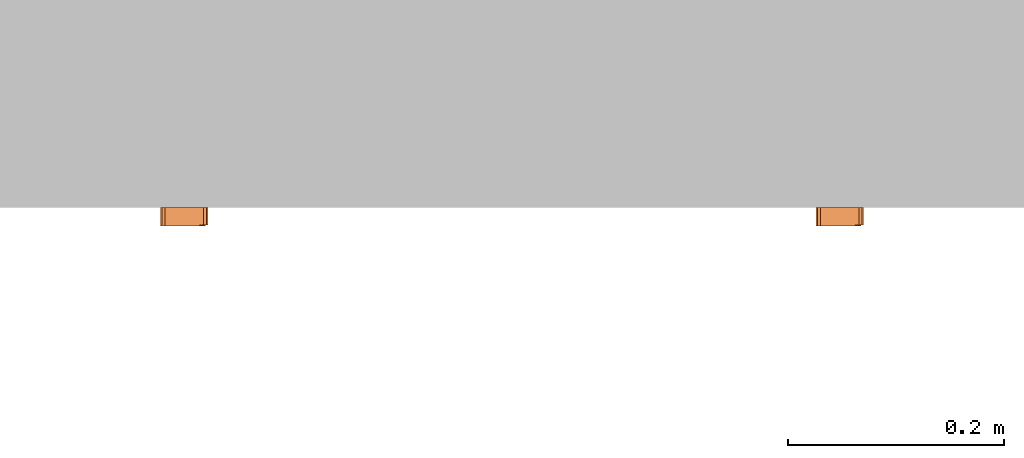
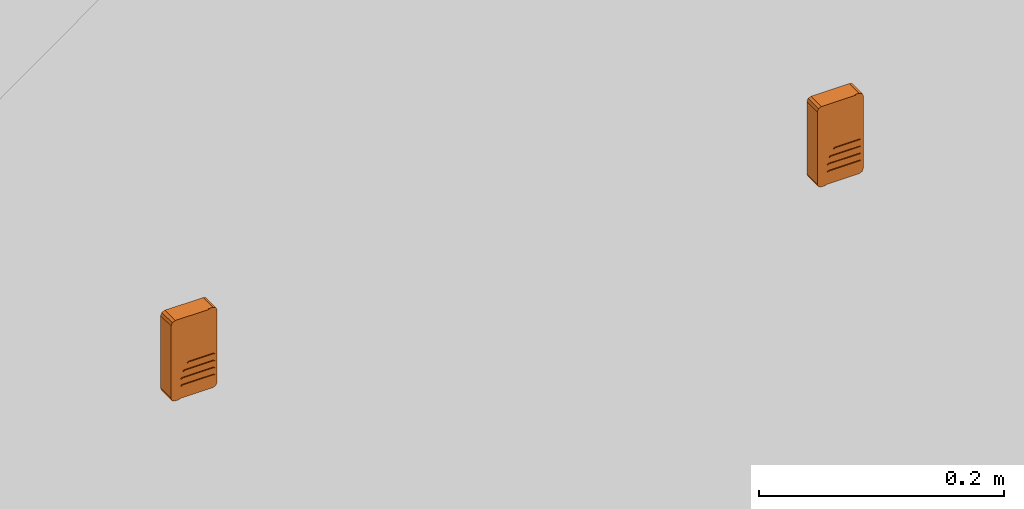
# One storey, part 188 of 197: 2 proxies.
"""IFC2X3 building model written with IfcOpenShell, lengths in metres."""

from ifc_helpers import new_model, entity, si_unit, converted_unit, direction, frame, origin, place, context, subcontext, project, spatial, faceted_brep, source, transform, mapped, material, material_list, type_object, type_shapes, element, save


model = new_model("IFC2X3")

# Units and contexts
model_context = context("Model", 3, precision=1e-05, world=origin(), true_north=direction((6.123031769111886e-17, 1.0)))
body_context = subcontext(model_context, "Body", "Model", "MODEL_VIEW")
ifc_project = project(units=[si_unit("LENGTHUNIT", "METRE"), converted_unit("PLANEANGLEUNIT", "DEGREE", entity("IfcPlaneAngleMeasure", 0.017453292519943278), si_unit("PLANEANGLEUNIT", "RADIAN"), dimensions=[0, 0, 0, 0, 0, 0, 0]), si_unit("AREAUNIT", "SQUARE_METRE")], contexts=[model_context])

# Site, building, storey
site_placement = place(None, origin())
site = spatial("IfcSite", under=ifc_project, at=site_placement, Name="Default", CompositionType="ELEMENT")
building_placement = place(site_placement, origin())
building = spatial("IfcBuilding", under=site, at=building_placement, CompositionType="ELEMENT")
storey_placement = place(building_placement, origin())
storey = spatial("IfcBuildingStorey", under=building, at=storey_placement, Name="Niveau 0", CompositionType="ELEMENT", Elevation=0.0)

# Proxies
ifc_material_1 = material(Name="BETCE-VOYANT LECTEUR BADGE-VERT")
ifc_material_2 = material(Name="BETCE-LECTEUR BADGE-NOIR")
ifc_material_list = material_list([ifc_material_1, ifc_material_2])
building_element_proxy_type_1 = type_object("IfcBuildingElementProxyType", Name="Lecteur de badge saillie controle acces:NOIR", PredefinedType="NOTDEFINED", material=ifc_material_list)
shared_shape_1 = source(origin(), body_context, "Body", "Brep", [
    faceted_brep([(0.007121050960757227, -0.01700000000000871, 0.019818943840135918), (0.00912105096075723, -0.01700000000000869, 0.01781894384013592), (0.011121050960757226, -0.01700000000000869, 0.01981894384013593), (0.00912105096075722, -0.01700000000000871, 0.02181894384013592), (0.009121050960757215, -0.01600000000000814, 0.021818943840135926), (0.01112105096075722, -0.01600000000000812, 0.019818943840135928), (0.009121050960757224, -0.01600000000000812, 0.017818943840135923), (0.0071210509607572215, -0.01600000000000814, 0.019818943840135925)], [[[0, 1, 2, 3]], [[4, 5, 6, 7]], [[0, 7, 6, 1]], [[6, 5, 2, 1]], [[2, 5, 4, 3]], [[4, 7, 0, 3]]]),
    faceted_brep([(0.00912105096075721, -0.01700000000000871, 0.021818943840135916), (0.014034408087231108, -0.017000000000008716, 0.028399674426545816), (0.014027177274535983, -0.017000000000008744, 0.03400142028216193), (-0.017999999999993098, -0.017000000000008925, 0.03999999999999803), (0.013910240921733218, -0.017000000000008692, 0.023212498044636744), (0.01112105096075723, -0.01700000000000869, 0.019818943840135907), (0.007121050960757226, -0.01700000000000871, 0.019818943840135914), (0.01354322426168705, -0.01700000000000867, 0.01845762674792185), (0.00912105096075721, -0.01700000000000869, 0.01781894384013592), (0.012821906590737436, -0.017000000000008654, 0.014152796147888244), (0.011634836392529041, -0.01700000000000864, 0.010315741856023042), (0.009870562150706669, -0.017000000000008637, 0.0069641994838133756), (0.007417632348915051, -0.017000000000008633, 0.004115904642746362), (0.0041645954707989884, -0.017000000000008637, 0.001788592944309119), (0.014000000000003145, -0.017000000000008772, 0.03999999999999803), (-0.021999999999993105, -0.017000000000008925, 0.035999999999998), (-0.020828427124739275, -0.01700000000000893, 0.03882842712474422), (-0.00416459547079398, -0.01700000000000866, -0.0017885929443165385), (-0.007417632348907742, -0.017000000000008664, -0.004115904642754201), (-0.009870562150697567, -0.01700000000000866, -0.006964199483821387), (-0.011634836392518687, -0.017000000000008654, -0.01031574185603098), (-0.012821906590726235, -0.01700000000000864, -0.014152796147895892), (-0.021999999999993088, -0.01700000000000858, -0.036000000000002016), (-0.013543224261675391, -0.017000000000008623, -0.018457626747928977), (-0.013910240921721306, -0.017000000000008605, -0.023212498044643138), (-0.014034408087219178, -0.01700000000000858, -0.028399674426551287), (-0.014027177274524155, -0.017000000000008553, -0.03400142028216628), (-0.017999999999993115, -0.017000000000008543, -0.04000000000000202), (-0.020828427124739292, -0.017000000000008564, -0.0388284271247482), (-0.01399999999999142, -0.017000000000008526, -0.04000000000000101), (0.0, -0.017000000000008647, 0.0), (0.019649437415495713, -0.017000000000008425, -0.02758760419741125), (0.018649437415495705, -0.017000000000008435, -0.026587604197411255), (-0.011350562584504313, -0.017000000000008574, -0.02658760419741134), (-0.012350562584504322, -0.017000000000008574, -0.027587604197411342), (-0.011350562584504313, -0.017000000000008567, -0.028587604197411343), (0.018649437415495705, -0.017000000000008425, -0.028587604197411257), (0.01964943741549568, -0.017000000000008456, -0.02058760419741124), (0.01864943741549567, -0.017000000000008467, -0.01958760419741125), (-0.011350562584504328, -0.01700000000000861, -0.019587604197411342), (-0.012350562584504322, -0.01700000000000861, -0.020587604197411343), (-0.011350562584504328, -0.0170000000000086, -0.021587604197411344), (0.01864943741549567, -0.017000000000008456, -0.021587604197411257), (0.019649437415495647, -0.01700000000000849, -0.013587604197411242), (0.01864943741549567, -0.0170000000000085, -0.01258760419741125), (-0.009350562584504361, -0.017000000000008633, -0.012587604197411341), (-0.010350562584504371, -0.017000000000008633, -0.013587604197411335), (-0.009350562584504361, -0.017000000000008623, -0.014587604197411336), (0.01864943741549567, -0.01700000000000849, -0.014587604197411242), (0.019649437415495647, -0.017000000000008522, -0.006587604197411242), (0.018649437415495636, -0.017000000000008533, -0.00558760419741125), (-0.005350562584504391, -0.017000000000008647, -0.0055876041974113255), (-0.0063505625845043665, -0.017000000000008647, -0.006587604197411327), (-0.005350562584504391, -0.017000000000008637, -0.007587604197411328), (0.018649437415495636, -0.017000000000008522, -0.007587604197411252), (-0.006350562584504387, -0.016000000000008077, -0.006587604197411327), (-0.007417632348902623, -0.016000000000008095, -0.004115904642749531), (-0.009870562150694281, -0.01600000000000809, -0.0069641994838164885), (-0.005350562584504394, -0.016000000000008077, -0.005587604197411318), (-0.005350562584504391, -0.01600000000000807, -0.0075876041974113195), (-0.004164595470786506, -0.01600000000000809, -0.0017885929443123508), (0.0, -0.01600000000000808, 0.0), (0.01864943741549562, -0.016000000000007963, -0.00558760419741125), (0.004164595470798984, -0.016000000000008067, 0.001788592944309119), (0.007417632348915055, -0.016000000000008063, 0.004115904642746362), (0.00987056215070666, -0.016000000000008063, 0.0069641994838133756), (0.011634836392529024, -0.016000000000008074, 0.010315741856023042), (0.01282190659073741, -0.016000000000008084, 0.01415279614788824), (0.019649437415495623, -0.016000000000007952, -0.006587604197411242), (0.013543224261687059, -0.0160000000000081, 0.01845762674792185), (0.02200000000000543, -0.016000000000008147, 0.035999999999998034), (0.022000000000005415, -0.016000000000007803, -0.03600000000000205), (0.01964943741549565, -0.01600000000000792, -0.013587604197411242), (0.01864943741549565, -0.016000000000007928, -0.01258760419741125), (0.018649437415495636, -0.016000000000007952, -0.007587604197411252), (-0.009350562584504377, -0.016000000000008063, -0.012587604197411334), (0.019649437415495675, -0.016000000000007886, -0.02058760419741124), (0.01864943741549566, -0.016000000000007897, -0.01958760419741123), (0.01864943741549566, -0.01600000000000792, -0.014587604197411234), (-0.00935056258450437, -0.016000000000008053, -0.014587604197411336), (-0.011350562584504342, -0.01600000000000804, -0.019587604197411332), (-0.013543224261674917, -0.016000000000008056, -0.01845762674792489), (-0.012821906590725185, -0.016000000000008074, -0.014152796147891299), (-0.010350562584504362, -0.016000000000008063, -0.013587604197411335), (-0.011634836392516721, -0.016000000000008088, -0.010315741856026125), (-0.012350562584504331, -0.01600000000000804, -0.020587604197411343), (-0.013910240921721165, -0.016000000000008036, -0.02321249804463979), (-0.011350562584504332, -0.016000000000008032, -0.021587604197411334), (-0.011350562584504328, -0.016000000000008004, -0.02658760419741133), (-0.012350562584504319, -0.016000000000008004, -0.027587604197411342), (-0.014034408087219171, -0.01600000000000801, -0.02839967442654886), (-0.011350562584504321, -0.016000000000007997, -0.028587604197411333), (-0.014027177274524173, -0.016000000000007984, -0.03400142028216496), (-0.013999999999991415, -0.016000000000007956, -0.040000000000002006), (0.01800000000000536, -0.016000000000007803, -0.040000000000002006), (0.020828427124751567, -0.016000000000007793, -0.038828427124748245), (0.018649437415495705, -0.016000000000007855, -0.02858760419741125), (0.01864943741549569, -0.016000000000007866, -0.026587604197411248), (0.01864943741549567, -0.016000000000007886, -0.02158760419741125), (0.019649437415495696, -0.016000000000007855, -0.02758760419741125), (0.01391024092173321, -0.016000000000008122, 0.02321249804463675), (0.014034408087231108, -0.016000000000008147, 0.028399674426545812), (0.014027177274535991, -0.016000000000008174, 0.03400142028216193), (0.018000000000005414, -0.016000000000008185, 0.03999999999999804), (0.02082842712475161, -0.016000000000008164, 0.03882842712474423), (0.014000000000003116, -0.016000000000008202, 0.03999999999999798), (0.00912105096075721, -0.01600000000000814, 0.02181894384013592), (0.0071210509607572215, -0.01600000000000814, 0.019818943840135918), (0.009121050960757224, -0.01600000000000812, 0.01781894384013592), (0.01112105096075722, -0.01600000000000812, 0.019818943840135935), (-0.02199999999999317, 0.0, 0.03599999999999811), (-0.020828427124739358, 0.0, 0.038828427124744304), (-0.01799999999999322, 0.0, 0.03999999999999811), (0.01800000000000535, 0.0, 0.03999999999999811), (0.02082842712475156, 0.0, 0.038828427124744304), (0.022000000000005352, 0.0, 0.03599999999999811), (0.022000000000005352, 0.0, -0.03600000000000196), (0.020828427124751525, 0.0, -0.03882842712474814), (0.018000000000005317, 0.0, -0.04000000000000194), (-0.017999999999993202, 0.0, -0.04000000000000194), (-0.020828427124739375, 0.0, -0.038828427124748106), (-0.02199999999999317, 0.0, -0.03600000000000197), (0.01400000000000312, -0.016454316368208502, 0.03999999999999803), (-0.013999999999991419, -0.016545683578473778, -0.04000000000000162), (-0.013995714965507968, -0.016499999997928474, -0.025753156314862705), (-0.014040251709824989, -0.016499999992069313, -0.031149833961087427), (-0.013764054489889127, -0.016499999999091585, -0.020779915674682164), (-0.013233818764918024, -0.016500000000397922, -0.016247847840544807), (-0.010831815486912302, -0.01649999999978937, -0.008578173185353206), (-0.012293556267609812, -0.016499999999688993, -0.012174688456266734), (-0.005898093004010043, -0.016499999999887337, -0.0028860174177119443), (0.0, -0.016454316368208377, 0.0), (-0.008737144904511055, -0.016499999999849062, -0.005476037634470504), (0.008737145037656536, -0.01649999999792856, 0.005476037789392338), (0.005898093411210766, -0.016499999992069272, 0.002886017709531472), (0.010831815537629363, -0.016499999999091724, 0.008578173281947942), (0.012293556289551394, -0.016500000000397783, 0.012174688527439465), (0.013764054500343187, -0.016499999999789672, 0.020779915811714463), (0.01323381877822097, -0.01649999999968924, 0.016247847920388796), (0.014040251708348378, -0.016499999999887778, 0.03114983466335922), (0.0139957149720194, -0.016499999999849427, 0.02575315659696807)], [[[0, 1, 2]], [[2, 3, 0]], [[0, 4, 1]], [[4, 0, 5]], [[6, 0, 3]], [[4, 5, 7]], [[7, 5, 8]], [[9, 7, 8]], [[8, 10, 9]], [[8, 11, 10]], [[8, 12, 11]], [[8, 6, 12]], [[12, 6, 13]], [[3, 2, 14]], [[6, 3, 15]], [[3, 16, 15]], [[17, 6, 15]], [[18, 17, 15]], [[18, 15, 19]], [[20, 19, 15]], [[21, 20, 15]], [[21, 15, 22]], [[23, 21, 22]], [[24, 23, 22]], [[22, 25, 24]], [[22, 26, 25]], [[22, 27, 26]], [[28, 27, 22]], [[29, 26, 27]], [[6, 17, 30]], [[6, 30, 13]], [[31, 32, 33, 34, 35, 36]], [[37, 38, 39, 40, 41, 42]], [[43, 44, 45, 46, 47, 48]], [[49, 50, 51, 52, 53, 54]], [[55, 56, 57]], [[58, 56, 55]], [[59, 55, 57]], [[56, 58, 60]], [[61, 60, 58]], [[62, 61, 58]], [[63, 61, 62]], [[64, 63, 62]], [[62, 65, 64]], [[62, 66, 65]], [[62, 67, 66]], [[68, 67, 62]], [[67, 68, 69]], [[69, 68, 70]], [[68, 71, 70]], [[71, 68, 72]], [[73, 72, 68]], [[73, 68, 74]], [[59, 73, 74]], [[73, 59, 75]], [[71, 72, 76]], [[72, 77, 76]], [[77, 72, 78]], [[77, 78, 79]], [[79, 80, 77]], [[79, 81, 80]], [[79, 82, 81]], [[79, 83, 82]], [[83, 75, 84]], [[82, 83, 84]], [[57, 84, 75]], [[59, 57, 75]], [[85, 80, 81]], [[81, 86, 85]], [[87, 85, 86]], [[86, 88, 87]], [[88, 86, 89]], [[89, 86, 90]], [[90, 91, 89]], [[92, 91, 90]], [[91, 92, 93]], [[91, 93, 94]], [[71, 94, 95]], [[96, 94, 71]], [[96, 91, 94]], [[97, 87, 88]], [[98, 87, 97]], [[97, 76, 98]], [[99, 76, 97]], [[71, 99, 96]], [[71, 76, 99]], [[70, 100, 69]], [[101, 100, 70]], [[101, 70, 102]], [[102, 70, 103]], [[70, 104, 103]], [[105, 102, 103]], [[106, 107, 108, 109]], [[110, 111, 112, 113, 114, 115, 116, 117, 118, 119, 120, 121]], [[3, 14, 122, 105, 103, 113, 112]], [[3, 112, 111, 16]], [[111, 110, 15, 16]], [[22, 15, 110, 121]], [[22, 121, 120, 28]], [[120, 119, 27, 28]], [[27, 119, 118, 94, 93, 123, 29]], [[94, 118, 117, 95]], [[117, 116, 71, 95]], [[70, 71, 116, 115]], [[70, 115, 114, 104]], [[114, 113, 103, 104]], [[26, 29, 123]], [[93, 92, 123]], [[124, 90, 86]], [[124, 125, 90]], [[125, 92, 90]], [[126, 86, 81]], [[126, 124, 86]], [[125, 123, 92]], [[125, 26, 123]], [[25, 124, 24]], [[125, 124, 25]], [[24, 124, 126]], [[81, 82, 127]], [[24, 126, 23]], [[23, 126, 127]], [[127, 126, 81]], [[127, 21, 23]], [[25, 26, 125]], [[128, 84, 57]], [[21, 129, 20]], [[130, 56, 60]], [[131, 17, 130]], [[19, 132, 18]], [[57, 56, 132]], [[60, 61, 63, 131]], [[131, 13, 30, 17]], [[84, 129, 82]], [[20, 129, 128]], [[132, 128, 57]], [[21, 127, 129]], [[128, 132, 19]], [[18, 132, 130]], [[18, 130, 17]], [[130, 60, 131]], [[128, 129, 84]], [[20, 128, 19]], [[130, 132, 56]], [[129, 127, 82]], [[133, 64, 65]], [[133, 134, 64]], [[134, 63, 64]], [[135, 65, 66]], [[135, 133, 65]], [[134, 131, 63]], [[134, 13, 131]], [[12, 133, 11]], [[134, 133, 12]], [[11, 133, 135]], [[66, 67, 136]], [[11, 135, 10]], [[10, 135, 136]], [[136, 135, 66]], [[136, 9, 10]], [[12, 13, 134]], [[137, 69, 100]], [[9, 138, 7]], [[139, 101, 102]], [[122, 2, 139]], [[4, 140, 1]], [[100, 101, 140]], [[102, 105, 122]], [[122, 14, 2]], [[69, 138, 67]], [[7, 138, 137]], [[140, 137, 100]], [[9, 136, 138]], [[137, 140, 4]], [[1, 140, 139]], [[1, 139, 2]], [[139, 102, 122]], [[137, 138, 69]], [[7, 137, 4]], [[139, 140, 101]], [[138, 136, 67]], [[50, 62, 58, 51]], [[58, 55, 52, 51]], [[52, 55, 59, 53]], [[53, 59, 74, 54]], [[74, 68, 49, 54]], [[49, 68, 62, 50]], [[44, 73, 75, 45]], [[75, 83, 46, 45]], [[46, 83, 79, 47]], [[47, 79, 78, 48]], [[78, 72, 43, 48]], [[43, 72, 73, 44]], [[38, 77, 80, 39]], [[80, 85, 40, 39]], [[40, 85, 87, 41]], [[41, 87, 98, 42]], [[98, 76, 37, 42]], [[37, 76, 77, 38]], [[32, 97, 88, 33]], [[88, 89, 34, 33]], [[34, 89, 91, 35]], [[35, 91, 96, 36]], [[96, 99, 31, 36]], [[31, 99, 97, 32]], [[106, 0, 6, 107]], [[109, 5, 0, 106]], [[108, 8, 5, 109]], [[107, 6, 8, 108]]]),
])
type_shapes(building_element_proxy_type_1, [shared_shape_1])
proxy_1_placement = place(storey_placement, frame((-503.25959512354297, -41.558644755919, 1.0)))
element("IfcBuildingElementProxy", 1, at=proxy_1_placement, inside=storey, type_object=building_element_proxy_type_1, material=ifc_material_list, Name="Lecteur de badge saillie controle acces:NOIR", ObjectType="Lecteur de badge saillie controle acces:NOIR", context=body_context, shape_type="MappedRepresentation", body=[
    mapped(shared_shape_1, transform((0.0, 0.0, 0.0), scale=1.0)),
])
building_element_proxy_type_2 = type_object("IfcBuildingElementProxyType", Name="Lecteur de badge saillie controle acces:ORANGE", PredefinedType="NOTDEFINED", material=ifc_material_list)
shared_shape_2 = source(origin(), body_context, "Body", "Brep", [
    faceted_brep([(0.007121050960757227, -0.01700000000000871, 0.019818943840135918), (0.00912105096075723, -0.01700000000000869, 0.01781894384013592), (0.011121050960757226, -0.01700000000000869, 0.01981894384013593), (0.00912105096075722, -0.01700000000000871, 0.02181894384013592), (0.009121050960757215, -0.01600000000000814, 0.021818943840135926), (0.01112105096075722, -0.01600000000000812, 0.019818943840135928), (0.009121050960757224, -0.01600000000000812, 0.017818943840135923), (0.0071210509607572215, -0.01600000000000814, 0.019818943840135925)], [[[0, 1, 2, 3]], [[4, 5, 6, 7]], [[0, 7, 6, 1]], [[6, 5, 2, 1]], [[2, 5, 4, 3]], [[4, 7, 0, 3]]]),
    faceted_brep([(0.00912105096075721, -0.01700000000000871, 0.021818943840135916), (0.014034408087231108, -0.017000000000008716, 0.028399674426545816), (0.014027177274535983, -0.017000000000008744, 0.03400142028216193), (-0.017999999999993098, -0.017000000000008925, 0.03999999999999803), (0.013910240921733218, -0.017000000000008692, 0.023212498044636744), (0.01112105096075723, -0.01700000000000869, 0.019818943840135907), (0.007121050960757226, -0.01700000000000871, 0.019818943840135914), (0.01354322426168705, -0.01700000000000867, 0.01845762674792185), (0.00912105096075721, -0.01700000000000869, 0.01781894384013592), (0.012821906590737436, -0.017000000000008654, 0.014152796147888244), (0.011634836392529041, -0.01700000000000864, 0.010315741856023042), (0.009870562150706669, -0.017000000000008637, 0.0069641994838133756), (0.007417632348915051, -0.017000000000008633, 0.004115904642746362), (0.0041645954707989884, -0.017000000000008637, 0.001788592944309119), (0.014000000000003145, -0.017000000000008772, 0.03999999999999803), (-0.021999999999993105, -0.017000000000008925, 0.035999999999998), (-0.020828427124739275, -0.01700000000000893, 0.03882842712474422), (-0.00416459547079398, -0.01700000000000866, -0.0017885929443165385), (-0.007417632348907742, -0.017000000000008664, -0.004115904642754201), (-0.009870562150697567, -0.01700000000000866, -0.006964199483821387), (-0.011634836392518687, -0.017000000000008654, -0.01031574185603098), (-0.012821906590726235, -0.01700000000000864, -0.014152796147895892), (-0.021999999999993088, -0.01700000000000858, -0.036000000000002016), (-0.013543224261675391, -0.017000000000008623, -0.018457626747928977), (-0.013910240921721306, -0.017000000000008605, -0.023212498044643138), (-0.014034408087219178, -0.01700000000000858, -0.028399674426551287), (-0.014027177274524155, -0.017000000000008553, -0.03400142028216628), (-0.017999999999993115, -0.017000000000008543, -0.04000000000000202), (-0.020828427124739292, -0.017000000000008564, -0.0388284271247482), (-0.01399999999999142, -0.017000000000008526, -0.04000000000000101), (0.0, -0.017000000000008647, 0.0), (0.019649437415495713, -0.017000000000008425, -0.02758760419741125), (0.018649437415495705, -0.017000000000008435, -0.026587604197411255), (-0.011350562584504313, -0.017000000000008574, -0.02658760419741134), (-0.012350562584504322, -0.017000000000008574, -0.027587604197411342), (-0.011350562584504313, -0.017000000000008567, -0.028587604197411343), (0.018649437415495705, -0.017000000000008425, -0.028587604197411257), (0.01964943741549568, -0.017000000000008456, -0.02058760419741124), (0.01864943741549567, -0.017000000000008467, -0.01958760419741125), (-0.011350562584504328, -0.01700000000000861, -0.019587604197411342), (-0.012350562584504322, -0.01700000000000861, -0.020587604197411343), (-0.011350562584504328, -0.0170000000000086, -0.021587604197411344), (0.01864943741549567, -0.017000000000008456, -0.021587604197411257), (0.019649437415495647, -0.01700000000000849, -0.013587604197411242), (0.01864943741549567, -0.0170000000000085, -0.01258760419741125), (-0.009350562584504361, -0.017000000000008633, -0.012587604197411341), (-0.010350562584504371, -0.017000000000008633, -0.013587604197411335), (-0.009350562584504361, -0.017000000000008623, -0.014587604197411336), (0.01864943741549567, -0.01700000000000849, -0.014587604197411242), (0.019649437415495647, -0.017000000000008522, -0.006587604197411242), (0.018649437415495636, -0.017000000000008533, -0.00558760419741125), (-0.005350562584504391, -0.017000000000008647, -0.0055876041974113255), (-0.0063505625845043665, -0.017000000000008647, -0.006587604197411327), (-0.005350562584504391, -0.017000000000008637, -0.007587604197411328), (0.018649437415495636, -0.017000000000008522, -0.007587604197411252), (-0.006350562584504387, -0.016000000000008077, -0.006587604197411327), (-0.007417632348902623, -0.016000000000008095, -0.004115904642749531), (-0.009870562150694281, -0.01600000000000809, -0.0069641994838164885), (-0.005350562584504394, -0.016000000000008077, -0.005587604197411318), (-0.005350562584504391, -0.01600000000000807, -0.0075876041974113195), (-0.004164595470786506, -0.01600000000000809, -0.0017885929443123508), (0.0, -0.01600000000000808, 0.0), (0.01864943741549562, -0.016000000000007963, -0.00558760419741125), (0.004164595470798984, -0.016000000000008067, 0.001788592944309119), (0.007417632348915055, -0.016000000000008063, 0.004115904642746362), (0.00987056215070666, -0.016000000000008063, 0.0069641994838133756), (0.011634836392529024, -0.016000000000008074, 0.010315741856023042), (0.01282190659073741, -0.016000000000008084, 0.01415279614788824), (0.019649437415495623, -0.016000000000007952, -0.006587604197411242), (0.013543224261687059, -0.0160000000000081, 0.01845762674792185), (0.02200000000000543, -0.016000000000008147, 0.035999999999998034), (0.022000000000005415, -0.016000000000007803, -0.03600000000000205), (0.01964943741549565, -0.01600000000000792, -0.013587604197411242), (0.01864943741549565, -0.016000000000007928, -0.01258760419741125), (0.018649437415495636, -0.016000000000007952, -0.007587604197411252), (-0.009350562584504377, -0.016000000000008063, -0.012587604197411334), (0.019649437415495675, -0.016000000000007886, -0.02058760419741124), (0.01864943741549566, -0.016000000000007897, -0.01958760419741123), (0.01864943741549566, -0.01600000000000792, -0.014587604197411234), (-0.00935056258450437, -0.016000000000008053, -0.014587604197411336), (-0.011350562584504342, -0.01600000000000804, -0.019587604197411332), (-0.013543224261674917, -0.016000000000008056, -0.01845762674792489), (-0.012821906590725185, -0.016000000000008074, -0.014152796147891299), (-0.010350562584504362, -0.016000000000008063, -0.013587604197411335), (-0.011634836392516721, -0.016000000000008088, -0.010315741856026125), (-0.012350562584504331, -0.01600000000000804, -0.020587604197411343), (-0.013910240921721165, -0.016000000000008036, -0.02321249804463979), (-0.011350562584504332, -0.016000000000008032, -0.021587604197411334), (-0.011350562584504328, -0.016000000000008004, -0.02658760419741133), (-0.012350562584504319, -0.016000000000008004, -0.027587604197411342), (-0.014034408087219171, -0.01600000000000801, -0.02839967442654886), (-0.011350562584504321, -0.016000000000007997, -0.028587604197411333), (-0.014027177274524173, -0.016000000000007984, -0.03400142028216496), (-0.013999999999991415, -0.016000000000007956, -0.040000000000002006), (0.01800000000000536, -0.016000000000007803, -0.040000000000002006), (0.020828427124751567, -0.016000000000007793, -0.038828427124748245), (0.018649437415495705, -0.016000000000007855, -0.02858760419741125), (0.01864943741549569, -0.016000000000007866, -0.026587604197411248), (0.01864943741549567, -0.016000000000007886, -0.02158760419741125), (0.019649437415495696, -0.016000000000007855, -0.02758760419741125), (0.01391024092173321, -0.016000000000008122, 0.02321249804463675), (0.014034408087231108, -0.016000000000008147, 0.028399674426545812), (0.014027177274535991, -0.016000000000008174, 0.03400142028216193), (0.018000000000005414, -0.016000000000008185, 0.03999999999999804), (0.02082842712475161, -0.016000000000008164, 0.03882842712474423), (0.014000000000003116, -0.016000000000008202, 0.03999999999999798), (0.00912105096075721, -0.01600000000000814, 0.02181894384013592), (0.0071210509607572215, -0.01600000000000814, 0.019818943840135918), (0.009121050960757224, -0.01600000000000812, 0.01781894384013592), (0.01112105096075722, -0.01600000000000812, 0.019818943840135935), (-0.02199999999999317, 0.0, 0.03599999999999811), (-0.020828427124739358, 0.0, 0.038828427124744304), (-0.01799999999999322, 0.0, 0.03999999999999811), (0.01800000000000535, 0.0, 0.03999999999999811), (0.02082842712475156, 0.0, 0.038828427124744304), (0.022000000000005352, 0.0, 0.03599999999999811), (0.022000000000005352, 0.0, -0.03600000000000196), (0.020828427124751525, 0.0, -0.03882842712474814), (0.018000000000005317, 0.0, -0.04000000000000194), (-0.017999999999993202, 0.0, -0.04000000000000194), (-0.020828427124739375, 0.0, -0.038828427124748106), (-0.02199999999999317, 0.0, -0.03600000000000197), (0.01400000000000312, -0.016454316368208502, 0.03999999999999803), (-0.013999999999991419, -0.016545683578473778, -0.04000000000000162), (-0.013995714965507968, -0.016499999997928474, -0.025753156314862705), (-0.014040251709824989, -0.016499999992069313, -0.031149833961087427), (-0.013764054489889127, -0.016499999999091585, -0.020779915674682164), (-0.013233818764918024, -0.016500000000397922, -0.016247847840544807), (-0.010831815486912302, -0.01649999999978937, -0.008578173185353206), (-0.012293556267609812, -0.016499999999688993, -0.012174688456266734), (-0.005898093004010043, -0.016499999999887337, -0.0028860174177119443), (0.0, -0.016454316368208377, 0.0), (-0.008737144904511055, -0.016499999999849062, -0.005476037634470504), (0.008737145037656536, -0.01649999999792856, 0.005476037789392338), (0.005898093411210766, -0.016499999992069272, 0.002886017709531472), (0.010831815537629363, -0.016499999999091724, 0.008578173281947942), (0.012293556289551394, -0.016500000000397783, 0.012174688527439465), (0.013764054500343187, -0.016499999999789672, 0.020779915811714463), (0.01323381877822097, -0.01649999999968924, 0.016247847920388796), (0.014040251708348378, -0.016499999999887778, 0.03114983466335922), (0.0139957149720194, -0.016499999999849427, 0.02575315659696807)], [[[0, 1, 2]], [[2, 3, 0]], [[0, 4, 1]], [[4, 0, 5]], [[6, 0, 3]], [[4, 5, 7]], [[7, 5, 8]], [[9, 7, 8]], [[8, 10, 9]], [[8, 11, 10]], [[8, 12, 11]], [[8, 6, 12]], [[12, 6, 13]], [[3, 2, 14]], [[6, 3, 15]], [[3, 16, 15]], [[17, 6, 15]], [[18, 17, 15]], [[18, 15, 19]], [[20, 19, 15]], [[21, 20, 15]], [[21, 15, 22]], [[23, 21, 22]], [[24, 23, 22]], [[22, 25, 24]], [[22, 26, 25]], [[22, 27, 26]], [[28, 27, 22]], [[29, 26, 27]], [[6, 17, 30]], [[6, 30, 13]], [[31, 32, 33, 34, 35, 36]], [[37, 38, 39, 40, 41, 42]], [[43, 44, 45, 46, 47, 48]], [[49, 50, 51, 52, 53, 54]], [[55, 56, 57]], [[58, 56, 55]], [[59, 55, 57]], [[56, 58, 60]], [[61, 60, 58]], [[62, 61, 58]], [[63, 61, 62]], [[64, 63, 62]], [[62, 65, 64]], [[62, 66, 65]], [[62, 67, 66]], [[68, 67, 62]], [[67, 68, 69]], [[69, 68, 70]], [[68, 71, 70]], [[71, 68, 72]], [[73, 72, 68]], [[73, 68, 74]], [[59, 73, 74]], [[73, 59, 75]], [[71, 72, 76]], [[72, 77, 76]], [[77, 72, 78]], [[77, 78, 79]], [[79, 80, 77]], [[79, 81, 80]], [[79, 82, 81]], [[79, 83, 82]], [[83, 75, 84]], [[82, 83, 84]], [[57, 84, 75]], [[59, 57, 75]], [[85, 80, 81]], [[81, 86, 85]], [[87, 85, 86]], [[86, 88, 87]], [[88, 86, 89]], [[89, 86, 90]], [[90, 91, 89]], [[92, 91, 90]], [[91, 92, 93]], [[91, 93, 94]], [[71, 94, 95]], [[96, 94, 71]], [[96, 91, 94]], [[97, 87, 88]], [[98, 87, 97]], [[97, 76, 98]], [[99, 76, 97]], [[71, 99, 96]], [[71, 76, 99]], [[70, 100, 69]], [[101, 100, 70]], [[101, 70, 102]], [[102, 70, 103]], [[70, 104, 103]], [[105, 102, 103]], [[106, 107, 108, 109]], [[110, 111, 112, 113, 114, 115, 116, 117, 118, 119, 120, 121]], [[3, 14, 122, 105, 103, 113, 112]], [[3, 112, 111, 16]], [[111, 110, 15, 16]], [[22, 15, 110, 121]], [[22, 121, 120, 28]], [[120, 119, 27, 28]], [[27, 119, 118, 94, 93, 123, 29]], [[94, 118, 117, 95]], [[117, 116, 71, 95]], [[70, 71, 116, 115]], [[70, 115, 114, 104]], [[114, 113, 103, 104]], [[26, 29, 123]], [[93, 92, 123]], [[124, 90, 86]], [[124, 125, 90]], [[125, 92, 90]], [[126, 86, 81]], [[126, 124, 86]], [[125, 123, 92]], [[125, 26, 123]], [[25, 124, 24]], [[125, 124, 25]], [[24, 124, 126]], [[81, 82, 127]], [[24, 126, 23]], [[23, 126, 127]], [[127, 126, 81]], [[127, 21, 23]], [[25, 26, 125]], [[128, 84, 57]], [[21, 129, 20]], [[130, 56, 60]], [[131, 17, 130]], [[19, 132, 18]], [[57, 56, 132]], [[60, 61, 63, 131]], [[131, 13, 30, 17]], [[84, 129, 82]], [[20, 129, 128]], [[132, 128, 57]], [[21, 127, 129]], [[128, 132, 19]], [[18, 132, 130]], [[18, 130, 17]], [[130, 60, 131]], [[128, 129, 84]], [[20, 128, 19]], [[130, 132, 56]], [[129, 127, 82]], [[133, 64, 65]], [[133, 134, 64]], [[134, 63, 64]], [[135, 65, 66]], [[135, 133, 65]], [[134, 131, 63]], [[134, 13, 131]], [[12, 133, 11]], [[134, 133, 12]], [[11, 133, 135]], [[66, 67, 136]], [[11, 135, 10]], [[10, 135, 136]], [[136, 135, 66]], [[136, 9, 10]], [[12, 13, 134]], [[137, 69, 100]], [[9, 138, 7]], [[139, 101, 102]], [[122, 2, 139]], [[4, 140, 1]], [[100, 101, 140]], [[102, 105, 122]], [[122, 14, 2]], [[69, 138, 67]], [[7, 138, 137]], [[140, 137, 100]], [[9, 136, 138]], [[137, 140, 4]], [[1, 140, 139]], [[1, 139, 2]], [[139, 102, 122]], [[137, 138, 69]], [[7, 137, 4]], [[139, 140, 101]], [[138, 136, 67]], [[50, 62, 58, 51]], [[58, 55, 52, 51]], [[52, 55, 59, 53]], [[53, 59, 74, 54]], [[74, 68, 49, 54]], [[49, 68, 62, 50]], [[44, 73, 75, 45]], [[75, 83, 46, 45]], [[46, 83, 79, 47]], [[47, 79, 78, 48]], [[78, 72, 43, 48]], [[43, 72, 73, 44]], [[38, 77, 80, 39]], [[80, 85, 40, 39]], [[40, 85, 87, 41]], [[41, 87, 98, 42]], [[98, 76, 37, 42]], [[37, 76, 77, 38]], [[32, 97, 88, 33]], [[88, 89, 34, 33]], [[34, 89, 91, 35]], [[35, 91, 96, 36]], [[96, 99, 31, 36]], [[31, 99, 97, 32]], [[106, 0, 6, 107]], [[109, 5, 0, 106]], [[108, 8, 5, 109]], [[107, 6, 8, 108]]]),
])
type_shapes(building_element_proxy_type_2, [shared_shape_2])
proxy_2_placement = place(storey_placement, frame((-502.65159512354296, -41.558644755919, 1.0)))
element("IfcBuildingElementProxy", 2, at=proxy_2_placement, inside=storey, type_object=building_element_proxy_type_2, material=ifc_material_list, Name="Lecteur de badge saillie controle acces:ORANGE", ObjectType="Lecteur de badge saillie controle acces:ORANGE", context=body_context, shape_type="MappedRepresentation", body=[
    mapped(shared_shape_2, transform((0.0, 0.0, 0.0), scale=1.0)),
])

save(model, "model.ifc")
